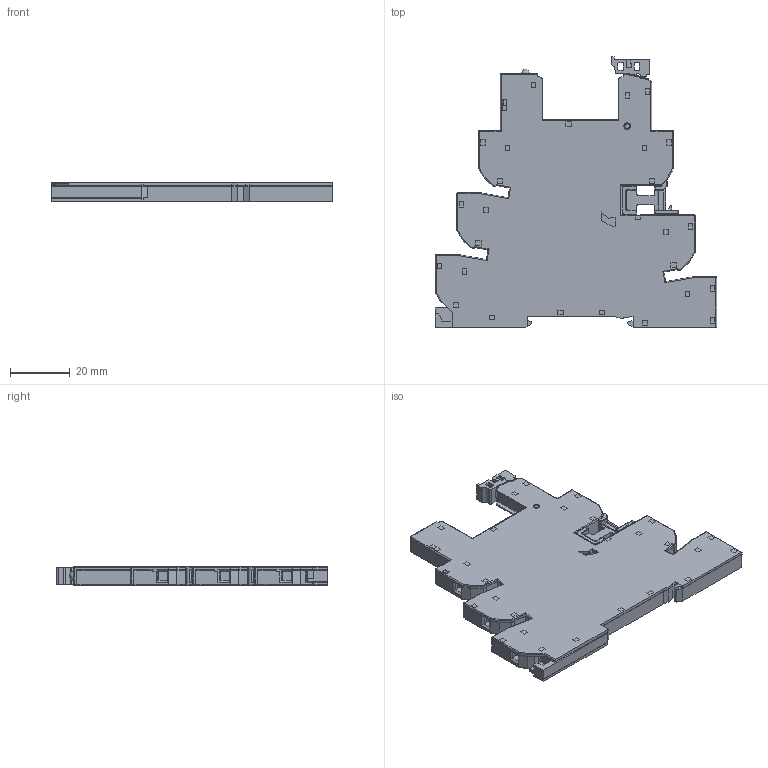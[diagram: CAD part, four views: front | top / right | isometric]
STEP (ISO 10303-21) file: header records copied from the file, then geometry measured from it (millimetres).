
FILE_DESCRIPTION(('STEP AP214'),'2;1');
FILE_NAME('9364_esistente FINITO+Tappo.stp','2011-02-02T09:31:46',(''),(''),'2007.1.106','THINKDESIGN','');
FILE_SCHEMA(('AUTOMOTIVE_DESIGN'));
Products named in the file (1): None
Bounding box: 94.25 x 90.7 x 6.2 mm (x, y, z)
Surface area: 18255.9 mm2 (no closed solid volume)
Topology: 0 solids, 0 shells, 1326 faces, 7867 edges, 7849 vertices
Faces by surface type: plane 1061, cylinder 226, bspline 39
Full cylindrical faces by diameter (mm): 2 x2, 2.2 x2, 3 x1, 3.9 x6
Entity records: 77155 total; most frequent: CARTESIAN_POINT 20101, DIRECTION 10115, COMPOSITE_CURVE_SEGMENT 7849, TRIMMED_CURVE 7208, VECTOR 6875, LINE 6875, AXIS2_PLACEMENT_3D 1620, OUTER_BOUNDARY_CURVE 1326
